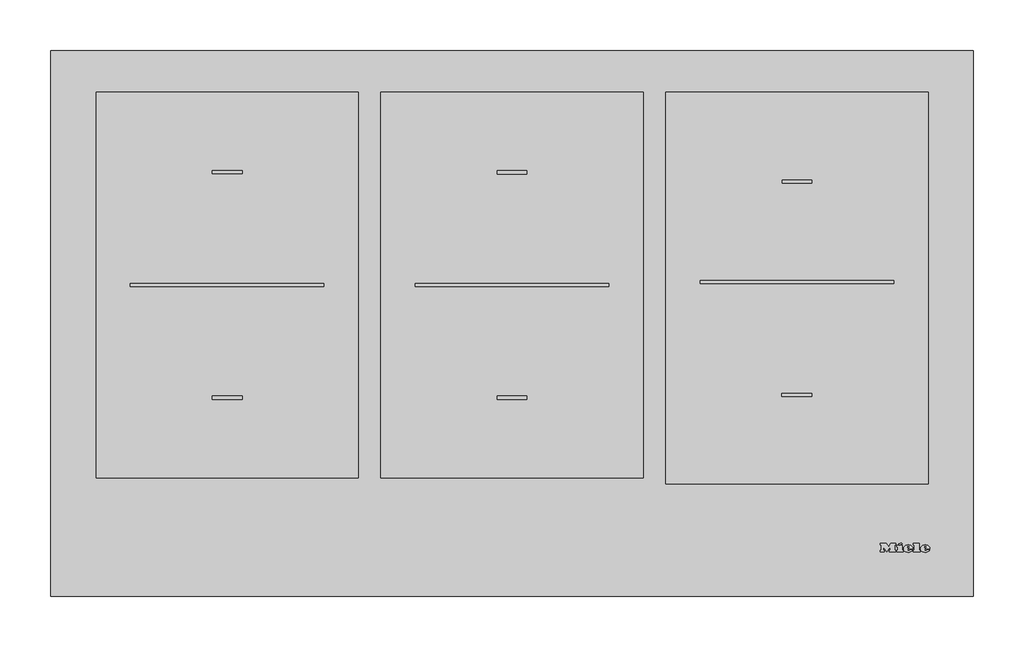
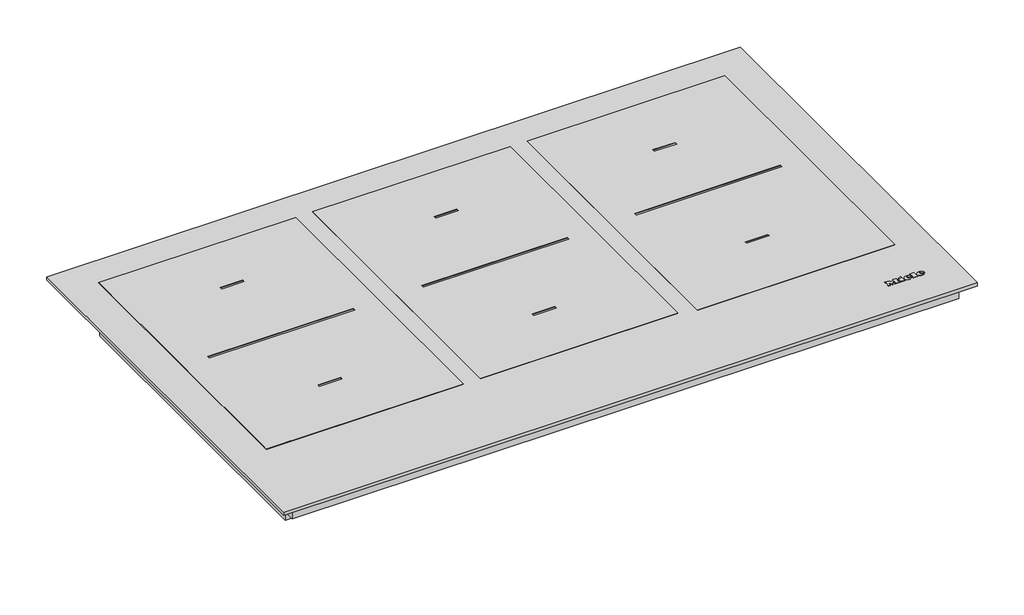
# Not in any storey: 1 proxy.
"""IFC4 building model written with IfcOpenShell, lengths in millimetres."""

import ifcopenshell
import ifcopenshell.guid

model = None  # the IFC model being written
_history = None  # IfcOwnerHistory: only IFC2X3 demands one
_inside = {}  # id of a spatial element -> (the spatial element, [elements in it])
_under = {}  # id of a project, library or spatial element -> (it, [spatial elements below it])
_declared = {}  # id of a project -> (the project, [libraries it declares])
_typed = {}  # id of a type object -> (the type object, [elements of that type])
_made_of = {}  # id of a material, layer set ... -> (it, [elements and type objects made of it])


def new_model(schema):
    """Start an empty IFC model of exactly this schema.

    Asked for "IFC4X3", IfcOpenShell would pick the latest addendum, in which some entities
    have other attributes; the version numbers below select the first issue.
    IFC2X3 requires an IfcOwnerHistory on every rooted entity: one is made here for all.
    """
    global model, _history
    if schema == "IFC4X3":
        model = ifcopenshell.file(schema_version=(4, 3, 0, 0))
    else:
        model = ifcopenshell.file(schema=schema)
    _inside.clear()
    _under.clear()
    _declared.clear()
    _typed.clear()
    _made_of.clear()
    _history = None
    if model.schema == "IFC2X3":
        org = make("IfcOrganization", Name="unknown")
        user = make(
            "IfcPersonAndOrganization",
            ThePerson=make("IfcPerson", FamilyName="unknown"),
            TheOrganization=org,
        )
        app = make(
            "IfcApplication",
            ApplicationDeveloper=org,
            Version="unknown",
            ApplicationFullName="unknown",
            ApplicationIdentifier="unknown",
        )
        _history = make(
            "IfcOwnerHistory",
            OwningUser=user,
            OwningApplication=app,
            ChangeAction="ADDED",
            CreationDate=0,
        )
    return model


def make(cls, **values):
    """One entity of the class cls with the attributes given. An attribute that is None is left unset."""
    return model.create_entity(
        cls, **{name: value for name, value in values.items() if value is not None}
    )


def rooted(cls, **values):
    """An entity with a GlobalId (a new one), such as an element, a storey or a relation."""
    return make(cls, GlobalId=ifcopenshell.guid.new(), OwnerHistory=_history, **values)


def si_unit(unit_type, name, prefix=None):
    """IfcSIUnit, for example si_unit("LENGTHUNIT", "METRE", prefix="MILLI")."""
    return make("IfcSIUnit", UnitType=unit_type, Prefix=prefix, Name=name)


def assignment(units):
    """IfcUnitAssignment: the units of a project."""
    return None if units is None else make("IfcUnitAssignment", Units=units)


def point(xyz):
    """IfcCartesianPoint."""
    return None if xyz is None else make("IfcCartesianPoint", Coordinates=xyz)


def direction(xyz):
    """IfcDirection."""
    return None if xyz is None else make("IfcDirection", DirectionRatios=xyz)


def frame(location, z_axis=None, x_axis=None):
    """IfcAxis2Placement3D, a coordinate frame: its origin and axes. An axis left out is left unset."""
    return make(
        "IfcAxis2Placement3D",
        Location=point(location),
        Axis=direction(z_axis),
        RefDirection=direction(x_axis),
    )


def origin():
    """The frame at (0, 0, 0) with its axes left unset."""
    return frame((0.0, 0.0, 0.0))


def origin_with_axes():
    """The frame at (0, 0, 0) with the z axis (0, 0, 1) and the x axis (1, 0, 0) written out."""
    return frame((0.0, 0.0, 0.0), z_axis=(0.0, 0.0, 1.0), x_axis=(1.0, 0.0, 0.0))


def place(relative_to, where):
    """IfcLocalPlacement: puts the frame where relative to a parent placement (None: the world)."""
    return make(
        "IfcLocalPlacement", PlacementRelTo=relative_to, RelativePlacement=where
    )


def context(
    kind, dimensions, precision=None, world=None, true_north=None, identifier=None
):
    """IfcGeometricRepresentationContext, for example the 3D "Model" context."""
    return make(
        "IfcGeometricRepresentationContext",
        ContextIdentifier=identifier,
        ContextType=kind,
        CoordinateSpaceDimension=dimensions,
        Precision=precision,
        WorldCoordinateSystem=world,
        TrueNorth=true_north,
    )


def project(units=None, contexts=None):
    """IfcProject with its units and contexts."""
    return rooted(
        "IfcProject",
        Name="project",
        RepresentationContexts=contexts,
        UnitsInContext=assignment(units),
    )


def spatial(cls, under=None, at=None, **own):
    """A site, building, storey or space (cls), placed at a placement, below another one or the project."""
    s = rooted(cls, ObjectPlacement=at, **own)
    if under is not None:
        _under.setdefault(under.id(), (under, []))[1].append(s)
    return s


def polyline(points):
    """IfcPolyline through the points."""
    return make("IfcPolyline", Points=[point(p) for p in points])


def circle_curve(where, radius):
    """IfcCircle in the frame where."""
    return make("IfcCircle", Position=where, Radius=radius)


def ellipse_curve(where, semi_axis1, semi_axis2):
    """IfcEllipse in the frame where."""
    return make(
        "IfcEllipse", Position=where, SemiAxis1=semi_axis1, SemiAxis2=semi_axis2
    )


def trimmed(basis, trim1, trim2, sense, master):
    """IfcTrimmedCurve: the piece of a basis curve between two trims."""
    return make(
        "IfcTrimmedCurve",
        BasisCurve=basis,
        Trim1=trim1,
        Trim2=trim2,
        SenseAgreement=sense,
        MasterRepresentation=master,
    )


def outline(outer, holes=None, kind="AREA"):
    """IfcArbitraryClosedProfileDef: a profile drawn as a closed curve; with holes, ...WithVoids."""
    if holes is None:
        return make("IfcArbitraryClosedProfileDef", ProfileType=kind, OuterCurve=outer)
    return make(
        "IfcArbitraryProfileDefWithVoids",
        ProfileType=kind,
        OuterCurve=outer,
        InnerCurves=holes,
    )


def extrude(swept, where, along, depth):
    """IfcExtrudedAreaSolid: the profile swept, set in the frame where, extruded along a direction by depth."""
    return make(
        "IfcExtrudedAreaSolid",
        SweptArea=swept,
        Position=where,
        ExtrudedDirection=direction(along),
        Depth=depth,
    )


def shape(context_of_items, identifier, shape_type, items):
    """IfcShapeRepresentation: the items that make up one representation, for example the "Body"."""
    return make(
        "IfcShapeRepresentation",
        ContextOfItems=context_of_items,
        RepresentationIdentifier=identifier,
        RepresentationType=shape_type,
        Items=items,
    )


def source(mapping_origin, context_of_items, identifier, shape_type, items):
    """IfcRepresentationMap: a shape defined once, which mapped items show again and again."""
    return make(
        "IfcRepresentationMap",
        MappingOrigin=mapping_origin,
        MappedRepresentation=shape(context_of_items, identifier, shape_type, items),
    )


def transform(
    local_origin,
    x_axis=None,
    y_axis=None,
    z_axis=None,
    scale=None,
    scale2=None,
    scale3=None,
    uniform=True,
):
    """IfcCartesianTransformationOperator3D, or its non-uniform kind. x_axis, y_axis, z_axis: its Axis1, 2, 3."""
    if uniform:
        return make(
            "IfcCartesianTransformationOperator3D",
            Axis1=direction(x_axis),
            Axis2=direction(y_axis),
            LocalOrigin=point(local_origin),
            Scale=scale,
            Axis3=direction(z_axis),
        )
    return make(
        "IfcCartesianTransformationOperator3DnonUniform",
        Axis1=direction(x_axis),
        Axis2=direction(y_axis),
        LocalOrigin=point(local_origin),
        Scale=scale,
        Axis3=direction(z_axis),
        Scale2=scale2,
        Scale3=scale3,
    )


def mapped(mapping_source, mapping_target):
    """IfcMappedItem: shows the shape of a source again, moved by a transform."""
    return make(
        "IfcMappedItem", MappingSource=mapping_source, MappingTarget=mapping_target
    )


def made_of(thing, what):
    """Note that an element or type object is made of a material, layer set ...; save() writes the relation."""
    if what is not None:
        _made_of.setdefault(what.id(), (what, []))[1].append(thing)
    return thing


def element(
    cls,
    number,
    at=None,
    inside=None,
    cuts=None,
    type_object=None,
    material=None,
    context=None,
    identifier="Body",
    shape_type=None,
    held_by="IfcProductDefinitionShape",
    body=None,
    shapes=None,
    **own,
):
    """One element of the class cls, such as IfcWall. Its Tag is "e" and its number.

    at: its placement. inside: the storey or other place that contains it. cuts: it is an
    opening in that element (IfcRelVoidsElement). A single representation is given by context,
    identifier, shape_type and body (its items); several are given by shapes. held_by: the class
    of the entity that holds the representations. save() writes the other relations.
    """
    e = rooted(cls, Tag="e%d" % number, ObjectPlacement=at, **own)
    if body is not None:
        shapes = [shape(context, identifier, shape_type, body)]
    if shapes is not None:
        e.Representation = make(held_by, Representations=shapes)
    if inside is not None:
        _inside.setdefault(inside.id(), (inside, []))[1].append(e)
    if cuts is not None:
        rooted(
            "IfcRelVoidsElement", RelatingBuildingElement=cuts, RelatedOpeningElement=e
        )
    if type_object is not None:
        _typed.setdefault(type_object.id(), (type_object, []))[1].append(e)
    return made_of(e, material)


def aggregate(whole, parts):
    """IfcRelAggregates: a whole, such as a stair, and the parts it consists of."""
    return rooted("IfcRelAggregates", RelatingObject=whole, RelatedObjects=parts)


def save(model, path):
    """Write the relations noted so far, then the file.

    IfcRelAggregates (storeys below a building ...), IfcRelContainedInSpatialStructure (elements
    in a storey), IfcRelDefinesByType, IfcRelAssociatesMaterial and IfcRelDeclares: one each for
    every whole, place, type object, material and project.
    """
    for whole, parts in _under.values():
        aggregate(whole, parts)
    for where, things in _inside.values():
        rooted(
            "IfcRelContainedInSpatialStructure",
            RelatedElements=things,
            RelatingStructure=where,
        )
    for kind, things in _typed.values():
        rooted("IfcRelDefinesByType", RelatedObjects=things, RelatingType=kind)
    for what, things in _made_of.values():
        rooted("IfcRelAssociatesMaterial", RelatedObjects=things, RelatingMaterial=what)
    for by, libraries in _declared.values():
        rooted("IfcRelDeclares", RelatingContext=by, RelatedDefinitions=libraries)
    model.write(path)


def plane_surface(at):
    """IfcPlane: the flat surface through the origin of the frame at, square to its z axis."""
    return make("IfcPlane", Position=at)


def cylinder_surface(at, radius):
    """IfcCylindricalSurface: all points at the distance radius from the z axis of the frame at."""
    return make("IfcCylindricalSurface", Position=at, Radius=radius)


def revolved_surface(curve, axis_point, axis_direction):
    """IfcSurfaceOfRevolution: the curve turned about the line through axis_point along axis_direction."""
    return make(
        "IfcSurfaceOfRevolution",
        SweptCurve=make("IfcArbitraryOpenProfileDef", ProfileType="CURVE", Curve=curve),
        AxisPosition=make("IfcAxis1Placement", Location=point(axis_point), Axis=direction(axis_direction)),
    )


def extruded_surface(curve, direction_of_extrusion, depth):
    """IfcSurfaceOfLinearExtrusion: the curve pushed along a direction by depth."""
    return make(
        "IfcSurfaceOfLinearExtrusion",
        SweptCurve=make("IfcArbitraryOpenProfileDef", ProfileType="CURVE", Curve=curve),
        ExtrudedDirection=direction(direction_of_extrusion),
        Depth=depth,
    )


def advanced_brep(points, edges, surfaces, faces):
    """IfcAdvancedBrep: a solid bounded by faces that lie on surfaces and meet in shared edges.

    An edge is (start, end): straight between two places in points (the first is 0);
    or (start, end, curve); or (start, end, curve, False) where it runs against its curve.
    A face is (place in surfaces, loops), or (place, loops, False) where it looks against
    its surface's normal. A loop lists edges by number (the first is 1), with a minus sign
    where the edge is run from its end to its start. The first loop is the outer one.
    """
    corners = [point(p) for p in points]
    vertices = [make("IfcVertexPoint", VertexGeometry=c) for c in corners]
    made = []
    for start, end, *more in edges:
        made.append(
            make(
                "IfcEdgeCurve",
                EdgeStart=vertices[start],
                EdgeEnd=vertices[end],
                EdgeGeometry=more[0] if more else make("IfcPolyline", Points=[corners[start], corners[end]]),
                SameSense=more[1] if len(more) > 1 else True,
            )
        )
    hull = []
    for where, loops, *sense in faces:
        bounds = []
        for j, loop in enumerate(loops):
            ring = [make("IfcOrientedEdge", EdgeElement=made[abs(k) - 1], Orientation=k > 0) for k in loop]
            bounds.append(
                make(
                    "IfcFaceOuterBound" if j == 0 else "IfcFaceBound",
                    Bound=make("IfcEdgeLoop", EdgeList=ring),
                    Orientation=True,
                )
            )
        hull.append(make("IfcAdvancedFace", Bounds=bounds, FaceSurface=surfaces[where], SameSense=sense[0] if sense else True))
    return make("IfcAdvancedBrep", Outer=make("IfcClosedShell", CfsFaces=hull))


def specialty_equipment_211efaef(model_context):
    return source(origin(), model_context, "Body", "SolidModel", [
        extrude(outline(polyline([(337.5, 501.967223), (337.5, 406.967223), (397.5, 406.967223), (397.5, 81.0082872), (-405.5, 81.0082872), (-405.5, 501.967223), (337.5, 501.967223)])), frame((0.0, 0.0, -73.0), z_axis=(0.0, 0.0, 1.0), x_axis=(1.0, 0.0, 0.0)), (0.0, 0.0, 1.0), 55.0),
        extrude(outline(polyline([(436.5, 526.5), (436.5, 11.5), (-436.5, 11.5), (-436.5, 526.5), (436.5, 526.5)])), frame((0.0, 0.0, -18.0), z_axis=(0.0, 0.0, 1.0), x_axis=(1.0, 0.0, 0.0)), (0.0, 0.0, 1.0), 18.0),
        extrude(outline(polyline([(454.5, 538.0003766), (454.5, -0.0003766), (-454.5, -0.0003766), (-454.5, 538.0003766), (454.5, 538.0003766)])), origin_with_axes(), (0.0, 0.0, 1.0), 4.5),
        extrude(outline(polyline([(410.2473209, 497.0), (410.2473209, 111.0), (151.5, 111.0), (151.5, 497.0), (410.2473209, 497.0)]), holes=[polyline([(295.4698605, 200.2556038), (266.0230529, 200.2556038), (266.0230529, 197.1564661), (295.4698605, 197.1564661), (295.4698605, 200.2556038)]), polyline([(376.2158938, 311.549726), (185.4877045, 311.549726), (185.4877045, 308.3762259), (376.2158938, 308.3762259), (376.2158938, 311.549726)]), polyline([(295.4537401, 410.4884684), (266.1401489, 410.4884684), (266.1401489, 407.211829), (295.4537401, 407.211829), (295.4537401, 410.4884684)])]), frame((0.0, 0.0, 4.5), z_axis=(0.0, 0.0, 1.0), x_axis=(1.0, 0.0, 0.0)), (0.0, 0.0, 1.0), 1.0),
        extrude(outline(polyline([(-129.2132706, 497.1546346), (129.2157772, 497.1546346), (129.2157772, 116.7447982), (-129.2132706, 116.7447982), (-129.2132706, 497.1546346)]), holes=[polyline([(-14.7077058, 197.4482317), (-14.7077058, 194.1488947), (14.7472454, 194.1488947), (14.7472454, 197.4482317), (-14.7077058, 197.4482317)]), polyline([(-95.3413839, 308.5435116), (-95.3413839, 305.3131557), (95.3054774, 305.3131557), (95.3054774, 308.5435116), (-95.3413839, 308.5435116)]), polyline([(-14.7262138, 419.8093528), (-14.7262138, 416.5100157), (14.7287374, 416.5100157), (14.7287374, 419.8093528), (-14.7262138, 419.8093528)])]), frame((0.0, 0.0, 4.5), z_axis=(0.0, 0.0, 1.0), x_axis=(1.0, 0.0, 0.0)), (0.0, 0.0, 1.0), 1.0),
        extrude(outline(polyline([(-151.4331059, 497.2152698), (-151.4331059, 116.8054334), (-409.8621536, 116.8054334), (-409.8621536, 497.2152698), (-151.4331059, 497.2152698)]), holes=[polyline([(-265.9386706, 197.508867), (-295.3936218, 197.508867), (-295.3936218, 194.2095299), (-265.9386706, 194.2095299), (-265.9386706, 197.508867)]), polyline([(-185.3049926, 308.6041469), (-375.9518538, 308.6041469), (-375.9518538, 305.373791), (-185.3049926, 305.373791), (-185.3049926, 308.6041469)]), polyline([(-265.9201627, 419.869988), (-295.3751139, 419.869988), (-295.3751139, 416.570651), (-265.9201627, 416.570651), (-265.9201627, 419.869988)])]), frame((0.0, 0.0, 4.5), z_axis=(0.0, 0.0, 1.0), x_axis=(1.0, 0.0, 0.0)), (0.0, 0.0, 1.0), 1.0),
        extrude(outline(polyline([(-54.6543984, 357.2597012), (-44.6087674, 357.2597012), (-44.6087674, 350.0394039), (-45.8644713, 350.0394039), (-45.8644713, 356.0039974), (-48.846768, 356.0039974), (-48.846768, 350.3533299), (-50.1024718, 350.3533299), (-50.1024718, 356.0039974), (-53.3986945, 356.0039974), (-53.3986945, 349.882441), (-54.6543984, 349.882441), (-54.6543984, 357.2597012)])), frame((0.0, 449.5664955, 0.0), z_axis=(0.0, 1.0, 0.0), x_axis=(0.0, 0.0, 1.0)), (0.0, 0.0, 1.0), 1.0),
        extrude(outline(polyline([(-54.6543984, 347.9988851), (-44.6087674, 347.9988851), (-44.6087674, 346.7431813), (-53.3986945, 346.7431813), (-53.3986945, 341.7203658), (-54.6543984, 341.7203658), (-54.6543984, 347.9988851)])), frame((0.0, 449.5664955, 0.0), z_axis=(0.0, 1.0, 0.0), x_axis=(0.0, 0.0, 1.0)), (0.0, 0.0, 1.0), 1.0),
        advanced_brep(
        [(337.5, 417.9999912, -49.6543984), (337.5, 433.9999912, -49.6543984), (359.0665043, 417.9999912, -49.6543984), (343.0665043, 433.9999912, -49.6543984), (359.0665043, 449.5664955, -49.6543984), (343.0665043, 449.5664955, -49.6543984)],
        [
            (0, 1, circle_curve(frame((337.5, 425.9999912, -49.6543984), z_axis=(-1.0, 0.0, 0.0), x_axis=(0.0, 1.0, 0.0)), 8.0)),
            (1, 0, circle_curve(frame((337.5, 425.9999912, -49.6543984), z_axis=(-1.0, 0.0, 0.0), x_axis=(0.0, 1.0, 0.0)), 8.0)),
            (0, 2),
            (2, 3, ellipse_curve(frame((351.0665043, 425.9999912, -49.6543984), z_axis=(-0.7071067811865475, -0.7071067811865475, 0.0), x_axis=(-0.7071067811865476, 0.7071067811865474, 0.0)), 11.3137085, 8.0)),
            (3, 1),
            (3, 2, ellipse_curve(frame((351.0665043, 425.9999912, -49.6543984), z_axis=(-0.7071067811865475, -0.7071067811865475, 0.0), x_axis=(-0.7071067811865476, 0.7071067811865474, 0.0)), 11.3137085, 8.0)),
            (4, 5, circle_curve(frame((351.0665043, 449.5664955, -49.6543984), z_axis=(0.0, 1.0, 0.0), x_axis=(-1.0, 0.0, 0.0)), 8.0)),
            (5, 4, circle_curve(frame((351.0665043, 449.5664955, -49.6543984), z_axis=(0.0, 1.0, 0.0), x_axis=(-1.0, 0.0, 0.0)), 8.0)),
            (2, 4),
            (5, 3),
        ],
        [
            plane_surface(frame((337.5, 429.5664955, 50.5163179), z_axis=(-1.0, 0.0, 0.0), x_axis=(0.0, 0.0, 1.0))),
            cylinder_surface(frame((337.5, 425.9999912, -49.6543984), z_axis=(-1.0, 0.0, 0.0), x_axis=(0.0, 1.0, 0.0)), 8.0),
            plane_surface(frame((347.5, 449.5664955, 50.5163179), z_axis=(0.0, 1.0, 0.0), x_axis=(0.0, 0.0, 1.0))),
            cylinder_surface(frame((351.0665043, 429.5664955, -49.6543984), z_axis=(0.0, -1.0, 0.0), x_axis=(-1.0, 0.0, 0.0)), 8.0),
        ],
        [
            (0, [[1, 2]]),
            (1, [[-1, 3, 4, 5]]),
            (1, [[-2, -5, 6, -3]]),
            (2, [[7, 8]]),
            (3, [[-4, 9, -8, 10]]),
            (3, [[-6, -10, -7, -9]]),
        ],
    ),
        advanced_brep(
        [(406.460016, 45.896, 5.5), (406.460016, 46.704, 5.5), (411.812016, 46.704, 5.5), (402.500016, 46.704, 5.5), (404.700016, 44.0, 5.5), (411.676016, 45.896, 5.5), (409.260016, 45.896, 5.5), (407.356016, 45.0, 5.5), (406.460016, 47.728, 5.5), (406.460016, 48.6, 5.5), (407.828016, 48.6, 5.5), (407.828016, 47.728, 5.5), (406.460016, 45.896, 4.5), (407.356016, 45.0, 4.5), (409.260016, 45.896, 4.5), (411.676016, 45.896, 4.5), (404.700016, 44.0, 4.5), (402.500016, 46.704, 4.5), (411.812016, 46.704, 4.5), (406.460016, 46.704, 4.5), (406.460016, 47.728, 4.5), (407.828016, 47.728, 4.5), (407.828016, 48.6, 4.5), (406.460016, 48.6, 4.5)],
        [
            (0, 1),
            (1, 2),
            (2, 3, ellipse_curve(frame((407.156016, 46.704, 5.5), z_axis=(0.0, 0.0, 1.0), x_axis=(-1.0, 0.0, 0.0)), 4.656, 3.848)),
            (3, 4, circle_curve(frame((405.5960596, 46.976, 5.5), z_axis=(0.0, 0.0, 1.0), x_axis=(0.0, -1.0, 0.0)), 3.1079688)),
            (4, 5, circle_curve(frame((407.0628096, 49.088, 5.5), z_axis=(0.0, 0.0, 1.0), x_axis=(0.0, -1.0, 0.0)), 5.6098607)),
            (5, 6),
            (6, 7, circle_curve(frame((407.7470748, 46.64, 5.5), z_axis=(0.0, 0.0, -1.0), x_axis=(0.0, -1.0, 0.0)), 1.6859795)),
            (7, 0, circle_curve(frame((407.356016, 45.896, 5.5), z_axis=(0.0, 0.0, -1.0), x_axis=(0.0, -1.0, 0.0)), 0.896)),
            (8, 9),
            (9, 10, circle_curve(frame((407.144016, 48.6, 5.5), z_axis=(0.0, 0.0, -1.0), x_axis=(0.0, -1.0, 0.0)), 0.684)),
            (10, 11),
            (11, 8),
            (12, 13, circle_curve(frame((407.356016, 45.896, 4.5), z_axis=(0.0, 0.0, 1.0), x_axis=(0.0, -1.0, 0.0)), 0.896)),
            (13, 14, circle_curve(frame((407.7470748, 46.64, 4.5), z_axis=(0.0, 0.0, 1.0), x_axis=(0.0, -1.0, 0.0)), 1.6859795)),
            (14, 15),
            (15, 16, circle_curve(frame((407.0628096, 49.088, 4.5), z_axis=(0.0, 0.0, -1.0), x_axis=(0.0, -1.0, 0.0)), 5.6098607)),
            (16, 17, circle_curve(frame((405.5960596, 46.976, 4.5), z_axis=(0.0, 0.0, -1.0), x_axis=(0.0, -1.0, 0.0)), 3.1079688)),
            (17, 18, ellipse_curve(frame((407.156016, 46.704, 4.5), z_axis=(0.0, 0.0, -1.0), x_axis=(-1.0, 0.0, 0.0)), 4.656, 3.848)),
            (18, 19),
            (19, 12),
            (20, 21),
            (21, 22),
            (22, 23, circle_curve(frame((407.144016, 48.6, 4.5), z_axis=(0.0, 0.0, 1.0), x_axis=(0.0, -1.0, 0.0)), 0.684)),
            (23, 20),
            (0, 12),
            (19, 1),
            (18, 2),
            (5, 15),
            (14, 6),
            (17, 3),
            (13, 7),
            (16, 4),
            (8, 20),
            (23, 9),
            (22, 10),
            (21, 11),
        ],
        [
            plane_surface(frame((406.460016, 46.704, 5.5), z_axis=(0.0, 0.0, 1.0), x_axis=(0.0, 1.0, 0.0))),
            plane_surface(frame((406.460016, 46.704, 4.5), z_axis=(0.0, 0.0, -1.0), x_axis=(0.0, -1.0, 0.0))),
            plane_surface(frame((406.460016, 45.896, 5.5), z_axis=(1.0, 0.0, 0.0), x_axis=(0.0, 0.0, -1.0))),
            plane_surface(frame((406.460016, 46.704, 5.5), z_axis=(0.0, -1.0, 0.0), x_axis=(0.0, 0.0, -1.0))),
            plane_surface(frame((411.676016, 45.896, 5.5), z_axis=(0.0, 1.0, 0.0), x_axis=(0.0, 0.0, -1.0))),
            extruded_surface(trimmed(ellipse_curve(frame((407.156016, 46.704, 3.5), z_axis=(0.0, 0.0, 1.0), x_axis=(-1.0, 0.0, 0.0)), 4.656, 3.848), [point((411.812016, 46.704, 3.5))], [point((402.500016, 46.704, 3.5))], True, "CARTESIAN"), (0.0, 0.0, 1.0), 1.0),
            revolved_surface(polyline([(407.7470748, 44.9540205, 4.5), (407.7470748, 44.9540205, 5.5)]), (407.7470748, 46.64, 4.5), (0.0, 0.0, -1.0)),
            revolved_surface(polyline([(407.356016, 45.0, 4.5), (407.356016, 45.0, 5.5)]), (407.356016, 45.896, 4.5), (0.0, 0.0, -1.0)),
            cylinder_surface(frame((405.5960596, 46.976, 4.5), z_axis=(0.0, 0.0, 1.0), x_axis=(0.0, -1.0, 0.0)), 3.1079688),
            cylinder_surface(frame((407.0628096, 49.088, 4.5), z_axis=(0.0, 0.0, 1.0), x_axis=(0.0, -1.0, 0.0)), 5.6098607),
            plane_surface(frame((406.460016, 47.728, 5.5), z_axis=(1.0, 0.0, 0.0), x_axis=(0.0, 0.0, -1.0))),
            revolved_surface(polyline([(407.144016, 47.916000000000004, 4.5), (407.144016, 47.916000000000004, 5.5)]), (407.144016, 48.6, 4.5), (0.0, 0.0, -1.0)),
            plane_surface(frame((407.828016, 48.6, 5.5), z_axis=(-1.0, 0.0, 0.0), x_axis=(0.0, 0.0, -1.0))),
            plane_surface(frame((407.828016, 47.728, 5.5), z_axis=(0.0, 1.0, 0.0), x_axis=(0.0, 0.0, -1.0))),
        ],
        [
            (0, [[1, 2, 3, 4, 5, 6, 7, 8], [9, 10, 11, 12]]),
            (1, [[13, 14, 15, 16, 17, 18, 19, 20], [21, 22, 23, 24]]),
            (2, [[-1, 25, -20, 26]]),
            (3, [[-2, -26, -19, 27]]),
            (4, [[-6, 28, -15, 29]]),
            (5, [[-3, -27, -18, 30]]),
            (6, [[-7, -29, -14, 31]]),
            (7, [[-8, -31, -13, -25]]),
            (8, [[-4, -30, -17, 32]]),
            (9, [[-5, -32, -16, -28]]),
            (10, [[-9, 33, -24, 34]]),
            (11, [[-10, -34, -23, 35]]),
            (12, [[-11, -35, -22, 36]]),
            (13, [[-12, -36, -21, -33]]),
        ],
    ),
        advanced_brep(
        [(389.764016, 45.896, 5.5), (389.764016, 46.704, 5.5), (395.116016, 46.704, 5.5), (385.804016, 46.704, 5.5), (388.004016, 44.0, 5.5), (394.980016, 45.896, 5.5), (392.564016, 45.896, 5.5), (390.660016, 45.0, 5.5), (389.764016, 47.728, 5.5), (389.764016, 48.6, 5.5), (391.132016, 48.6, 5.5), (391.132016, 47.728, 5.5), (389.764016, 45.896, 4.5), (390.660016, 45.0, 4.5), (392.564016, 45.896, 4.5), (394.980016, 45.896, 4.5), (388.004016, 44.0, 4.5), (385.804016, 46.704, 4.5), (395.116016, 46.704, 4.5), (389.764016, 46.704, 4.5), (389.764016, 47.728, 4.5), (391.132016, 47.728, 4.5), (391.132016, 48.6, 4.5), (389.764016, 48.6, 4.5)],
        [
            (0, 1),
            (1, 2),
            (2, 3, ellipse_curve(frame((390.460016, 46.704, 5.5), z_axis=(0.0, 0.0, 1.0), x_axis=(-1.0, 0.0, 0.0)), 4.656, 3.848)),
            (3, 4, circle_curve(frame((388.9000596, 46.976, 5.5), z_axis=(0.0, 0.0, 1.0), x_axis=(0.0, -1.0, 0.0)), 3.1079688)),
            (4, 5, circle_curve(frame((390.3668096, 49.088, 5.5), z_axis=(0.0, 0.0, 1.0), x_axis=(0.0, -1.0, 0.0)), 5.6098607)),
            (5, 6),
            (6, 7, circle_curve(frame((391.0510748, 46.64, 5.5), z_axis=(0.0, 0.0, -1.0), x_axis=(0.0, -1.0, 0.0)), 1.6859795)),
            (7, 0, circle_curve(frame((390.660016, 45.896, 5.5), z_axis=(0.0, 0.0, -1.0), x_axis=(0.0, -1.0, 0.0)), 0.896)),
            (8, 9),
            (9, 10, circle_curve(frame((390.448016, 48.6, 5.5), z_axis=(0.0, 0.0, -1.0), x_axis=(0.0, -1.0, 0.0)), 0.684)),
            (10, 11),
            (11, 8),
            (12, 13, circle_curve(frame((390.660016, 45.896, 4.5), z_axis=(0.0, 0.0, 1.0), x_axis=(0.0, -1.0, 0.0)), 0.896)),
            (13, 14, circle_curve(frame((391.0510748, 46.64, 4.5), z_axis=(0.0, 0.0, 1.0), x_axis=(0.0, -1.0, 0.0)), 1.6859795)),
            (14, 15),
            (15, 16, circle_curve(frame((390.3668096, 49.088, 4.5), z_axis=(0.0, 0.0, -1.0), x_axis=(0.0, -1.0, 0.0)), 5.6098607)),
            (16, 17, circle_curve(frame((388.9000596, 46.976, 4.5), z_axis=(0.0, 0.0, -1.0), x_axis=(0.0, -1.0, 0.0)), 3.1079688)),
            (17, 18, ellipse_curve(frame((390.460016, 46.704, 4.5), z_axis=(0.0, 0.0, -1.0), x_axis=(-1.0, 0.0, 0.0)), 4.656, 3.848)),
            (18, 19),
            (19, 12),
            (20, 21),
            (21, 22),
            (22, 23, circle_curve(frame((390.448016, 48.6, 4.5), z_axis=(0.0, 0.0, 1.0), x_axis=(0.0, -1.0, 0.0)), 0.684)),
            (23, 20),
            (0, 12),
            (19, 1),
            (18, 2),
            (5, 15),
            (14, 6),
            (17, 3),
            (13, 7),
            (16, 4),
            (8, 20),
            (23, 9),
            (22, 10),
            (21, 11),
        ],
        [
            plane_surface(frame((389.764016, 46.704, 5.5), z_axis=(0.0, 0.0, 1.0), x_axis=(0.0, 1.0, 0.0))),
            plane_surface(frame((389.764016, 46.704, 4.5), z_axis=(0.0, 0.0, -1.0), x_axis=(0.0, -1.0, 0.0))),
            plane_surface(frame((389.764016, 45.896, 5.5), z_axis=(1.0, 0.0, 0.0), x_axis=(0.0, 0.0, -1.0))),
            plane_surface(frame((389.764016, 46.704, 5.5), z_axis=(0.0, -1.0, 0.0), x_axis=(0.0, 0.0, -1.0))),
            plane_surface(frame((394.980016, 45.896, 5.5), z_axis=(0.0, 1.0, 0.0), x_axis=(0.0, 0.0, -1.0))),
            extruded_surface(trimmed(ellipse_curve(frame((390.460016, 46.704, 3.5), z_axis=(0.0, 0.0, 1.0), x_axis=(-1.0, 0.0, 0.0)), 4.656, 3.848), [point((395.116016, 46.704, 3.5))], [point((385.804016, 46.704, 3.5))], True, "CARTESIAN"), (0.0, 0.0, 1.0), 1.0),
            revolved_surface(polyline([(391.0510748, 44.9540205, 4.5), (391.0510748, 44.9540205, 5.5)]), (391.0510748, 46.64, 4.5), (0.0, 0.0, -1.0)),
            revolved_surface(polyline([(390.660016, 45.0, 4.5), (390.660016, 45.0, 5.5)]), (390.660016, 45.896, 4.5), (0.0, 0.0, -1.0)),
            cylinder_surface(frame((388.9000596, 46.976, 4.5), z_axis=(0.0, 0.0, 1.0), x_axis=(0.0, -1.0, 0.0)), 3.1079688),
            cylinder_surface(frame((390.3668096, 49.088, 4.5), z_axis=(0.0, 0.0, 1.0), x_axis=(0.0, -1.0, 0.0)), 5.6098607),
            plane_surface(frame((389.764016, 47.728, 5.5), z_axis=(1.0, 0.0, 0.0), x_axis=(0.0, 0.0, -1.0))),
            revolved_surface(polyline([(390.448016, 47.916000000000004, 4.5), (390.448016, 47.916000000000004, 5.5)]), (390.448016, 48.6, 4.5), (0.0, 0.0, -1.0)),
            plane_surface(frame((391.132016, 48.6, 5.5), z_axis=(-1.0, 0.0, 0.0), x_axis=(0.0, 0.0, -1.0))),
            plane_surface(frame((391.132016, 47.728, 5.5), z_axis=(0.0, 1.0, 0.0), x_axis=(0.0, 0.0, -1.0))),
        ],
        [
            (0, [[1, 2, 3, 4, 5, 6, 7, 8], [9, 10, 11, 12]]),
            (1, [[13, 14, 15, 16, 17, 18, 19, 20], [21, 22, 23, 24]]),
            (2, [[-1, 25, -20, 26]]),
            (3, [[-2, -26, -19, 27]]),
            (4, [[-6, 28, -15, 29]]),
            (5, [[-3, -27, -18, 30]]),
            (6, [[-7, -29, -14, 31]]),
            (7, [[-8, -31, -13, -25]]),
            (8, [[-4, -30, -17, 32]]),
            (9, [[-5, -32, -16, -28]]),
            (10, [[-9, 33, -24, 34]]),
            (11, [[-10, -34, -23, 35]]),
            (12, [[-11, -35, -22, 36]]),
            (13, [[-12, -36, -21, -33]]),
        ],
    ),
        extrude(outline(polyline([(381.020016, 51.528), (383.740016, 52.792), (384.340016, 51.496), (381.628016, 50.232), (381.020016, 51.528)])), frame((0.0, 0.0, 4.5), z_axis=(0.0, 0.0, 1.0), x_axis=(1.0, 0.0, 0.0)), (0.0, 0.0, 1.0), 1.0),
        extrude(outline(polyline([(379.044016, 50.056), (384.428016, 50.056), (384.428016, 45.344), (385.356016, 45.344), (385.356016, 44.0), (379.044016, 44.0), (379.044016, 45.344), (379.996016, 45.344), (379.996016, 48.624), (379.044016, 48.624), (379.044016, 50.056)])), frame((0.0, 0.0, 4.5), z_axis=(0.0, 0.0, 1.0), x_axis=(1.0, 0.0, 0.0)), (0.0, 0.0, 1.0), 1.0),
        extrude(outline(polyline([(395.564016, 50.696), (395.564016, 52.0), (401.068016, 52.0), (401.068016, 45.344), (402.052016, 45.344), (402.052016, 44.0), (395.564016, 44.0), (395.564016, 45.344), (396.524016, 45.344), (396.524016, 50.696), (395.564016, 50.696)])), frame((0.0, 0.0, 4.5), z_axis=(0.0, 0.0, 1.0), x_axis=(1.0, 0.0, 0.0)), (0.0, 0.0, 1.0), 1.0),
        extrude(outline(polyline([(363.100016, 50.696), (363.100016, 52.0), (368.676016, 52.0), (371.020016, 49.0), (373.356016, 52.0), (378.228016, 52.0), (378.228016, 50.696), (377.212016, 50.696), (377.212016, 45.344), (378.228016, 45.344), (378.228016, 44.0), (371.844016, 44.0), (371.844016, 45.344), (372.828016, 45.344), (372.828016, 48.8152223), (369.236016, 44.0), (365.660016, 48.7471247), (365.660016, 45.344), (366.620016, 45.344), (366.620016, 44.0), (363.100016, 44.0), (363.100016, 45.344), (364.068016, 45.344), (364.068016, 50.696), (363.100016, 50.696)])), frame((0.0, 0.0, 4.5), z_axis=(0.0, 0.0, 1.0), x_axis=(1.0, 0.0, 0.0)), (0.0, 0.0, 1.0), 1.0),
    ])


model = new_model("IFC4")

# Units and contexts
model_context = context("Model", 3, world=origin())
ifc_project = project(units=[si_unit("LENGTHUNIT", "METRE", prefix="MILLI")], contexts=[model_context])

# Site, building
site = spatial("IfcSite", under=ifc_project)
building = spatial("IfcBuilding", under=site)

# Proxy
placement = place(None, origin())
specialty_equipment_shape = specialty_equipment_211efaef(model_context)
element("IfcBuildingElementProxy", 1, Name="12074230_USA_KM7745FL : 26774570_USA_12074230_KM7745FL", ObjectType="12074230_USA_KM7745FL : 26774570_USA_12074230_KM7745FL", at=placement, inside=building, context=model_context, shape_type="MappedRepresentation", body=[
    mapped(specialty_equipment_shape, transform((0.0, 0.0, 0.0), x_axis=(1.0, 0.0, 0.0), y_axis=(0.0, 1.0, 0.0), z_axis=(0.0, 0.0, 1.0))),
])

save(model, "model.ifc")
